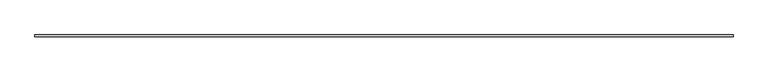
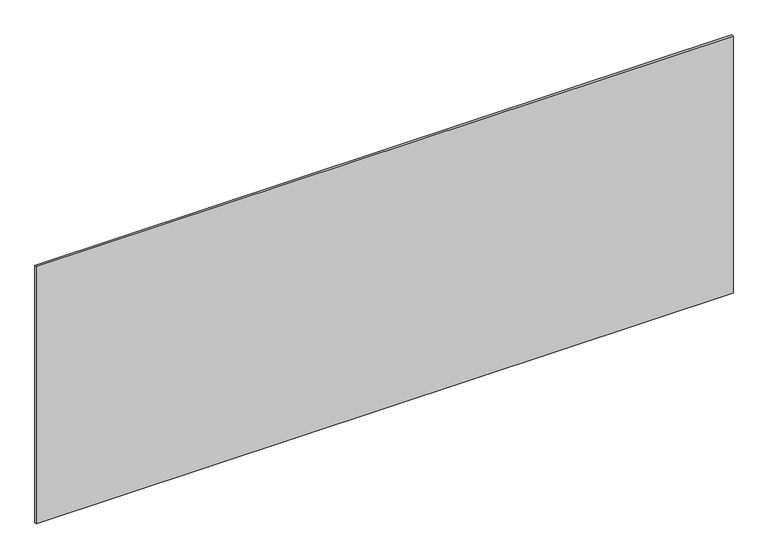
"""IFC4 building model written with IfcOpenShell, lengths in millimetres: plate geometry, システム パネル : 標準."""

from ifc_helpers import new_model, si_unit, origin, origin_with_axes, place, context, project, spatial, polyline, outline, extrude, source, transform, mapped, element, save


def plate_b5ac0942(model_context):
    return source(origin(), model_context, "Body", "SweptSolid", [
        extrude(outline(polyline([(1697.5, -5.0), (-1697.5, -5.0), (-1697.5, 5.0), (1697.5, 5.0), (1697.5, -5.0)])), origin_with_axes(), (0.0, 0.0, 1.0), 1325.4316357),
    ])


if __name__ == "__main__":
    model = new_model("IFC4")
    model_context = context("Model", 3, world=origin())
    ifc_project = project(units=[si_unit("LENGTHUNIT", "METRE", prefix="MILLI")], contexts=[model_context])
    site = spatial("IfcSite", under=ifc_project)
    building = spatial("IfcBuilding", under=site)
    placement = place(None, origin())
    plate_shape = plate_b5ac0942(model_context)
    element("IfcPlate", 1, ObjectType="システム パネル : 標準", at=placement, inside=building, context=model_context, shape_type="MappedRepresentation", body=[
        mapped(plate_shape, transform((0.0, 0.0, 0.0), x_axis=(1.0, 0.0, 0.0), y_axis=(0.0, 1.0, 0.0), z_axis=(0.0, 0.0, 1.0))),
    ])
    save(model, "model.ifc")
